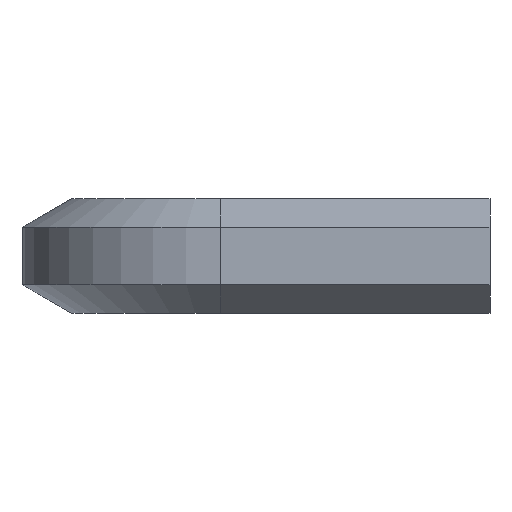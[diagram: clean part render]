
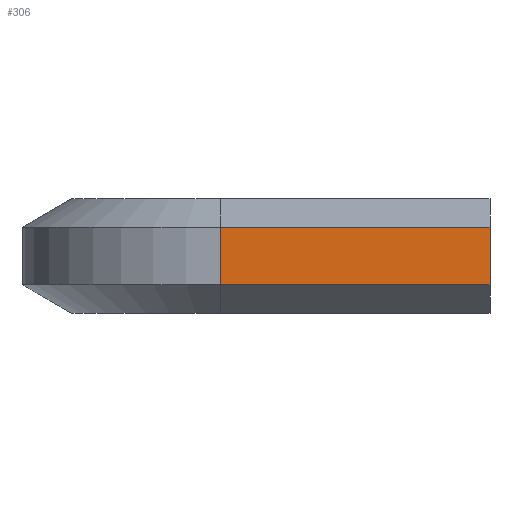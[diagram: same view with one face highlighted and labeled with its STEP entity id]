
A CAD part, left-side view. The second image highlights one B-rep face of the part: STEP entity #306.
In plain terms, the highlighted planar face has unit normal (-1, 0, 0).
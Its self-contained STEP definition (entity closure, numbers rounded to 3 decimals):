
#30=FACE_OUTER_BOUND('',#50,.T.);
#50=EDGE_LOOP('',(#217,#218,#219,#220));
#76=LINE('',#480,#112);
#77=LINE('',#483,#113);
#78=LINE('',#485,#114);
#79=LINE('',#486,#115);
#112=VECTOR('',#386,10.);
#113=VECTOR('',#389,10.);
#114=VECTOR('',#390,10.);
#115=VECTOR('',#391,10.);
#145=VERTEX_POINT('',#476);
#146=VERTEX_POINT('',#478);
#147=VERTEX_POINT('',#482);
#148=VERTEX_POINT('',#484);
#172=EDGE_CURVE('',#145,#146,#76,.T.);
#173=EDGE_CURVE('',#147,#145,#77,.T.);
#174=EDGE_CURVE('',#148,#146,#78,.T.);
#175=EDGE_CURVE('',#147,#148,#79,.T.);
#217=ORIENTED_EDGE('',*,*,#173,.T.);
#218=ORIENTED_EDGE('',*,*,#172,.T.);
#219=ORIENTED_EDGE('',*,*,#174,.F.);
#220=ORIENTED_EDGE('',*,*,#175,.F.);
#292=PLANE('',#346);
#306=ADVANCED_FACE('',(#30),#292,.T.);
#346=AXIS2_PLACEMENT_3D('',#481,#387,#388);
#386=DIRECTION('',(0.,-1.,0.));
#387=DIRECTION('center_axis',(-1.,0.,0.));
#388=DIRECTION('ref_axis',(0.,0.,-1.));
#389=DIRECTION('',(0.,0.,-1.));
#390=DIRECTION('',(0.,0.,-1.));
#391=DIRECTION('',(0.,-1.,0.));
#476=CARTESIAN_POINT('',(0.,46.,-4.907));
#478=CARTESIAN_POINT('',(0.,0.,-4.907));
#480=CARTESIAN_POINT('',(0.,46.,-4.907));
#481=CARTESIAN_POINT('Origin',(0.,46.,4.907));
#482=CARTESIAN_POINT('',(0.,46.,4.907));
#483=CARTESIAN_POINT('',(0.,46.,-4.907));
#484=CARTESIAN_POINT('',(0.,0.,4.907));
#485=CARTESIAN_POINT('',(0.,0.,-4.907));
#486=CARTESIAN_POINT('',(0.,46.,4.907));
